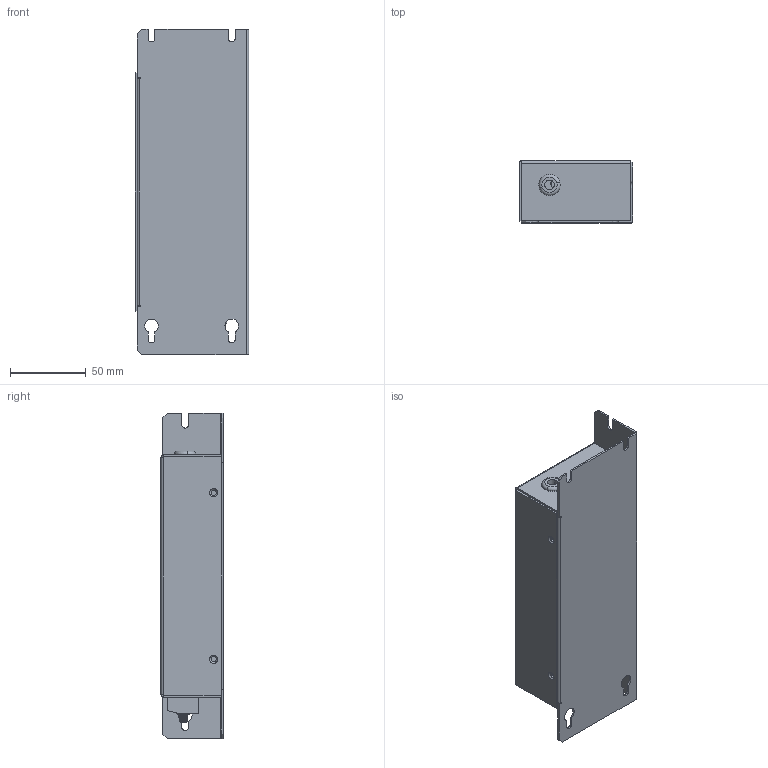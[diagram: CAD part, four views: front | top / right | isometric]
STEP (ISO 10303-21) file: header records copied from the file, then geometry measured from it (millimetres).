
FILE_DESCRIPTION (( 'STEP AP203' ), '1' );
FILE_NAME ('M400-1-1 assembly.STEP', '2016-09-07T08:15:54', ( '' ), ( '' ), 'SwSTEP 2.0', 'SolidWorks 2016', '' );
FILE_SCHEMA (( 'CONFIG_CONTROL_DESIGN' ));
Length unit declared in the file: millimetre
Products named in the file (10): M400-1-1 assembly; Grommet 15069; M400-1-1-box; M4 Hank 0.6mm; hex nut style 1_am_B18.2.4.1M - Hex nut, Style 1,  M5 x 0.8 --D-N; VDFK-4; flat washer narrow_am_B18.22M - Plain washer, 5 mm, narrow; M400-1-1-back; M5x13 Earth post; hex screw_am_B18.6.7M - M5 x 0.8 x 13 Indented HHMS --13S
Assembly tree (16 placements, depth 3):
  M400-1-1 assembly
    M400-1-1-back
    M400-1-1-box
    M4 Hank 0.6mm  x6
    Grommet 15069
    M5x13 Earth post
      hex screw_am_B18.6.7M - M5 x 0.8 x 13 Indented HHMS --13S
      flat washer narrow_am_B18.22M - Plain washer, 5 mm, narrow  x2
      hex nut style 1_am_B18.2.4.1M - Hex nut, Style 1,  M5 x 0.8 --D-N
    VDFK-4  x2
Bounding box: 75 x 41 x 215 mm (x, y, z)
Volume: 66582 mm3; surface area: 107360.4 mm2
Topology: 15 solids, 15 shells, 480 faces, 1146 edges, 714 vertices
Faces by surface type: plane 183, cylinder 157, cone 132, bspline 4, torus 4
Entity records: 12389 total; most frequent: CARTESIAN_POINT 2203, DIRECTION 2001, ORIENTED_EDGE 1790, EDGE_CURVE 895, AXIS2_PLACEMENT_3D 772, VERTEX_POINT 558, VECTOR 457, LINE 457
